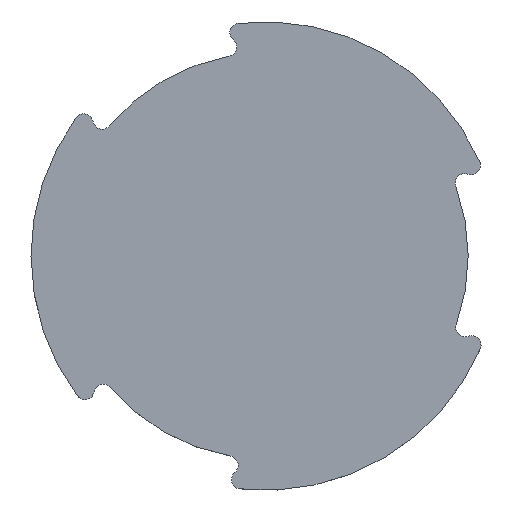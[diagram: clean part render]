
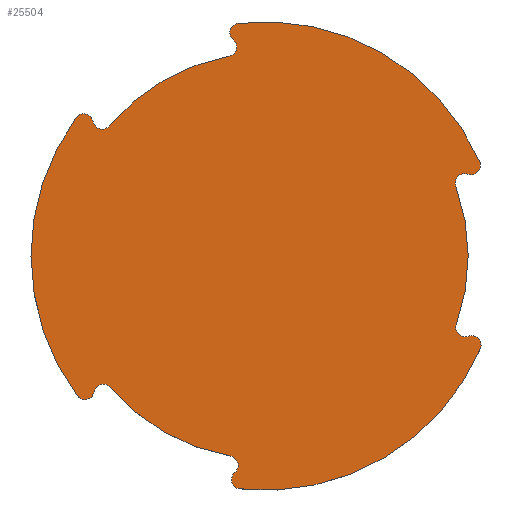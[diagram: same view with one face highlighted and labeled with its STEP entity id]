
A CAD part, top view. The second image highlights one B-rep face of the part: STEP entity #25504.
In plain terms, the highlighted planar face has unit normal (0, 0, 1).
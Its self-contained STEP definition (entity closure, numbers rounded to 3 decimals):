
#26=PLANE('',#29064);
#2811=FACE_OUTER_BOUND('',#4159,.T.);
#4159=EDGE_LOOP('',(#23282,#23283,#23284,#23285,#23286,#23287,#23288,#23289,
#23290,#23291,#23292,#23293,#23294,#23295,#23296,#23297,#23298,#23299));
#5862=CIRCLE('',#29029,6.);
#5863=CIRCLE('',#29031,130.);
#5864=CIRCLE('',#29033,6.);
#5865=CIRCLE('',#29035,6.);
#5866=CIRCLE('',#29037,150.);
#5867=CIRCLE('',#29039,6.);
#5868=CIRCLE('',#29041,6.);
#5869=CIRCLE('',#29043,130.);
#5870=CIRCLE('',#29045,6.);
#5871=CIRCLE('',#29047,6.);
#5872=CIRCLE('',#29049,150.);
#5873=CIRCLE('',#29051,6.);
#5874=CIRCLE('',#29053,6.);
#5875=CIRCLE('',#29055,130.);
#5876=CIRCLE('',#29057,6.);
#5877=CIRCLE('',#29059,6.);
#5878=CIRCLE('',#29061,150.);
#5879=CIRCLE('',#29063,6.);
#11222=VERTEX_POINT('',#284957);
#11223=VERTEX_POINT('',#284959);
#11224=VERTEX_POINT('',#284963);
#11225=VERTEX_POINT('',#284967);
#11226=VERTEX_POINT('',#284971);
#11227=VERTEX_POINT('',#284975);
#11228=VERTEX_POINT('',#284979);
#11229=VERTEX_POINT('',#284983);
#11230=VERTEX_POINT('',#284987);
#11231=VERTEX_POINT('',#284991);
#11232=VERTEX_POINT('',#284995);
#11233=VERTEX_POINT('',#284999);
#11234=VERTEX_POINT('',#285003);
#11235=VERTEX_POINT('',#285007);
#11236=VERTEX_POINT('',#285011);
#11237=VERTEX_POINT('',#285015);
#11238=VERTEX_POINT('',#285019);
#11239=VERTEX_POINT('',#285023);
#15225=EDGE_CURVE('',#11223,#11222,#5862,.T.);
#15227=EDGE_CURVE('',#11224,#11223,#5863,.T.);
#15229=EDGE_CURVE('',#11225,#11224,#5864,.T.);
#15231=EDGE_CURVE('',#11226,#11225,#5865,.T.);
#15233=EDGE_CURVE('',#11227,#11226,#5866,.T.);
#15235=EDGE_CURVE('',#11228,#11227,#5867,.T.);
#15237=EDGE_CURVE('',#11229,#11228,#5868,.T.);
#15239=EDGE_CURVE('',#11230,#11229,#5869,.T.);
#15241=EDGE_CURVE('',#11231,#11230,#5870,.T.);
#15243=EDGE_CURVE('',#11232,#11231,#5871,.T.);
#15245=EDGE_CURVE('',#11233,#11232,#5872,.T.);
#15247=EDGE_CURVE('',#11234,#11233,#5873,.T.);
#15249=EDGE_CURVE('',#11235,#11234,#5874,.T.);
#15251=EDGE_CURVE('',#11236,#11235,#5875,.T.);
#15253=EDGE_CURVE('',#11237,#11236,#5876,.T.);
#15255=EDGE_CURVE('',#11238,#11237,#5877,.T.);
#15257=EDGE_CURVE('',#11239,#11238,#5878,.T.);
#15259=EDGE_CURVE('',#11222,#11239,#5879,.T.);
#23282=ORIENTED_EDGE('',*,*,#15259,.T.);
#23283=ORIENTED_EDGE('',*,*,#15257,.T.);
#23284=ORIENTED_EDGE('',*,*,#15255,.T.);
#23285=ORIENTED_EDGE('',*,*,#15253,.T.);
#23286=ORIENTED_EDGE('',*,*,#15251,.T.);
#23287=ORIENTED_EDGE('',*,*,#15249,.T.);
#23288=ORIENTED_EDGE('',*,*,#15247,.T.);
#23289=ORIENTED_EDGE('',*,*,#15245,.T.);
#23290=ORIENTED_EDGE('',*,*,#15243,.T.);
#23291=ORIENTED_EDGE('',*,*,#15241,.T.);
#23292=ORIENTED_EDGE('',*,*,#15239,.T.);
#23293=ORIENTED_EDGE('',*,*,#15237,.T.);
#23294=ORIENTED_EDGE('',*,*,#15235,.T.);
#23295=ORIENTED_EDGE('',*,*,#15233,.T.);
#23296=ORIENTED_EDGE('',*,*,#15231,.T.);
#23297=ORIENTED_EDGE('',*,*,#15229,.T.);
#23298=ORIENTED_EDGE('',*,*,#15227,.T.);
#23299=ORIENTED_EDGE('',*,*,#15225,.T.);
#25504=ADVANCED_FACE('',(#2811),#26,.T.);
#29029=AXIS2_PLACEMENT_3D('',#284960,#37411,#37412);
#29031=AXIS2_PLACEMENT_3D('',#284964,#37416,#37417);
#29033=AXIS2_PLACEMENT_3D('',#284968,#37421,#37422);
#29035=AXIS2_PLACEMENT_3D('',#284972,#37426,#37427);
#29037=AXIS2_PLACEMENT_3D('',#284976,#37431,#37432);
#29039=AXIS2_PLACEMENT_3D('',#284980,#37436,#37437);
#29041=AXIS2_PLACEMENT_3D('',#284984,#37441,#37442);
#29043=AXIS2_PLACEMENT_3D('',#284988,#37446,#37447);
#29045=AXIS2_PLACEMENT_3D('',#284992,#37451,#37452);
#29047=AXIS2_PLACEMENT_3D('',#284996,#37456,#37457);
#29049=AXIS2_PLACEMENT_3D('',#285000,#37461,#37462);
#29051=AXIS2_PLACEMENT_3D('',#285004,#37466,#37467);
#29053=AXIS2_PLACEMENT_3D('',#285008,#37471,#37472);
#29055=AXIS2_PLACEMENT_3D('',#285012,#37476,#37477);
#29057=AXIS2_PLACEMENT_3D('',#285016,#37481,#37482);
#29059=AXIS2_PLACEMENT_3D('',#285020,#37486,#37487);
#29061=AXIS2_PLACEMENT_3D('',#285024,#37491,#37492);
#29063=AXIS2_PLACEMENT_3D('',#285027,#37496,#37497);
#29064=AXIS2_PLACEMENT_3D('',#285028,#37498,#37499);
#37411=DIRECTION('center_axis',(0.,0.,-1.));
#37412=DIRECTION('ref_axis',(0.173,-0.985,0.));
#37416=DIRECTION('center_axis',(0.,0.,1.));
#37417=DIRECTION('ref_axis',(-0.985,-0.175,0.));
#37421=DIRECTION('center_axis',(0.,0.,-1.));
#37422=DIRECTION('ref_axis',(0.985,0.175,0.));
#37426=DIRECTION('center_axis',(0.,0.,1.));
#37427=DIRECTION('ref_axis',(-0.994,-0.112,0.));
#37431=DIRECTION('center_axis',(0.,0.,1.));
#37432=DIRECTION('ref_axis',(-0.4,0.917,0.));
#37436=DIRECTION('center_axis',(0.,0.,1.));
#37437=DIRECTION('ref_axis',(0.939,-0.343,0.));
#37441=DIRECTION('center_axis',(0.,0.,-1.));
#37442=DIRECTION('ref_axis',(-0.939,0.343,0.));
#37446=DIRECTION('center_axis',(0.,0.,1.));
#37447=DIRECTION('ref_axis',(0.341,0.94,0.));
#37451=DIRECTION('center_axis',(0.,0.,-1.));
#37452=DIRECTION('ref_axis',(-0.341,-0.94,0.));
#37456=DIRECTION('center_axis',(0.,0.,1.));
#37457=DIRECTION('ref_axis',(0.4,0.917,0.));
#37461=DIRECTION('center_axis',(0.,0.,1.));
#37462=DIRECTION('ref_axis',(0.994,-0.112,0.));
#37466=DIRECTION('center_axis',(0.,0.,1.));
#37467=DIRECTION('ref_axis',(-0.766,-0.642,0.));
#37471=DIRECTION('center_axis',(0.,0.,-1.));
#37472=DIRECTION('ref_axis',(0.766,0.642,0.));
#37476=DIRECTION('center_axis',(0.,0.,1.));
#37477=DIRECTION('ref_axis',(0.644,-0.765,0.));
#37481=DIRECTION('center_axis',(0.,0.,-1.));
#37482=DIRECTION('ref_axis',(-0.644,0.765,0.));
#37486=DIRECTION('center_axis',(0.,0.,1.));
#37487=DIRECTION('ref_axis',(0.594,-0.805,0.));
#37491=DIRECTION('center_axis',(0.,0.,1.));
#37492=DIRECTION('ref_axis',(-0.594,-0.805,0.));
#37496=DIRECTION('center_axis',(0.,0.,1.));
#37497=DIRECTION('ref_axis',(-0.173,0.985,0.));
#37498=DIRECTION('center_axis',(0.,0.,1.));
#37499=DIRECTION('ref_axis',(1.,0.,0.));
#284957=CARTESIAN_POINT('',(-86.535,-109.963,-7.));
#284959=CARTESIAN_POINT('',(-83.709,-99.463,-7.));
#284960=CARTESIAN_POINT('Origin',(-87.573,-104.053,-7.));
#284963=CARTESIAN_POINT('',(-127.992,-22.763,-7.));
#284964=CARTESIAN_POINT('Origin',(0.,0.,
-7.));
#284967=CARTESIAN_POINT('',(-138.498,-19.96,-7.));
#284968=CARTESIAN_POINT('Origin',(-133.899,-23.813,-7.));
#284971=CARTESIAN_POINT('',(-149.059,-16.777,-7.));
#284972=CARTESIAN_POINT('Origin',(-143.096,-16.106,-7.));
#284975=CARTESIAN_POINT('',(-60.,137.477,-7.));
#284976=CARTESIAN_POINT('Origin',(0.,0.,
-7.));
#284979=CARTESIAN_POINT('',(-51.963,129.922,-7.));
#284980=CARTESIAN_POINT('Origin',(-57.6,131.978,-7.));
#284983=CARTESIAN_POINT('',(-44.283,122.225,-7.));
#284984=CARTESIAN_POINT('Origin',(-46.326,127.867,-7.));
#284987=CARTESIAN_POINT('',(44.283,122.225,-7.));
#284988=CARTESIAN_POINT('Origin',(0.,0.,
-7.));
#284991=CARTESIAN_POINT('',(51.963,129.922,-7.));
#284992=CARTESIAN_POINT('Origin',(46.326,127.867,-7.));
#284995=CARTESIAN_POINT('',(60.,137.477,-7.));
#284996=CARTESIAN_POINT('Origin',(57.6,131.978,-7.));
#284999=CARTESIAN_POINT('',(149.059,-16.777,-7.));
#285000=CARTESIAN_POINT('Origin',(0.,0.,
-7.));
#285003=CARTESIAN_POINT('',(138.498,-19.96,-7.));
#285004=CARTESIAN_POINT('Origin',(143.096,-16.106,-7.));
#285007=CARTESIAN_POINT('',(127.992,-22.763,-7.));
#285008=CARTESIAN_POINT('Origin',(133.899,-23.813,-7.));
#285011=CARTESIAN_POINT('',(83.709,-99.463,-7.));
#285012=CARTESIAN_POINT('Origin',(0.,0.,
-7.));
#285015=CARTESIAN_POINT('',(86.535,-109.963,-7.));
#285016=CARTESIAN_POINT('Origin',(87.573,-104.053,-7.));
#285019=CARTESIAN_POINT('',(89.059,-120.7,-7.));
#285020=CARTESIAN_POINT('Origin',(85.496,-115.872,-7.));
#285023=CARTESIAN_POINT('',(-89.059,-120.7,-7.));
#285024=CARTESIAN_POINT('Origin',(0.,0.,
-7.));
#285027=CARTESIAN_POINT('Origin',(-85.496,-115.872,-7.));
#285028=CARTESIAN_POINT('Origin',(0.,-6.011,
-7.));
